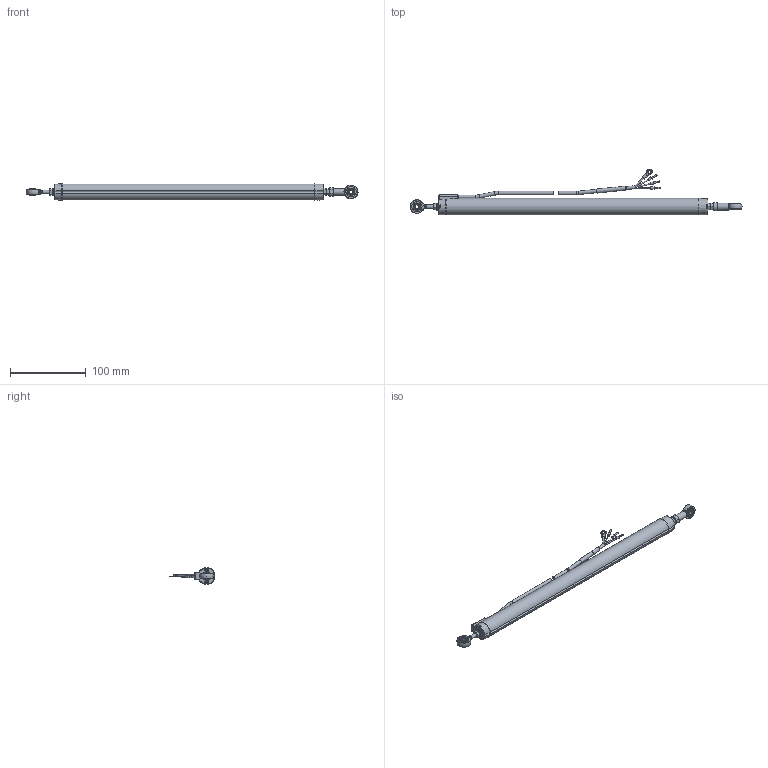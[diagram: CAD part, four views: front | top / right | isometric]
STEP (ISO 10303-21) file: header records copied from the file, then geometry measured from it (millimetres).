
FILE_DESCRIPTION(/* description */ (''),/* implementation_level */ '2;1');
FILE_NAME(/* name */ 'C:\Users\TSC_Brendan\Desktop\LPPS-22-300\LPPS-22-300 SW.stp',/* time_stamp */ '2021-10-19T15:20:35-04:00',/* author */ ('TSC_Brendan'),/* organization */ (''),/* preprocessor_version */ 'ST-DEVELOPER v18.1',/* originating_system */ 'Autodesk Inventor 2022',/* authorisation */ '');
FILE_SCHEMA (('AUTOMOTIVE_DESIGN { 1 0 10303 214 3 1 1 }'));
Products named in the file (4): LPPS-22-300 SW; LPPS-22-300 Cable_Simplify; LPPS-22-300 Housing_Simplify; LPPS-22-300 Shaft_Simplify
Assembly tree (3 placements, depth 2):
  LPPS-22-300 SW
    LPPS-22-300 Cable_Simplify
    LPPS-22-300 Housing_Simplify
    LPPS-22-300 Shaft_Simplify
Bounding box: 437.58 x 60.43 x 21.96 mm (x, y, z)
Volume: 71176.8 mm3; surface area: 67676.3 mm2
Topology: 30 solids, 30 shells, 757 faces, 2739 edges, 2048 vertices
Faces by surface type: cylinder 349, plane 202, cone 142, bspline 28, torus 22, sphere 14
Full cylindrical faces by diameter (mm): 1.27 x3, 1.48 x96, 1.575 x2, 2 x92, 2.286 x5, 3.175 x5, 3.81 x1, 3.881 x1, 4 x4, 4.134 x1, 4.191 x1, 4.342 x12, 4.572 x5, 4.826 x3, 4.851 x1, 4.953 x1, 5 x15, 5.004 x2, 5.08 x1, 5.207 x1, 5.3 x1, 6.35 x2, 9.144 x1, 10 x1, 12.675 x4, 12.7 x1, 15.875 x2, 17.78 x1
Entity records: 45074 total; most frequent: CARTESIAN_POINT 23734, ORIENTED_EDGE 5444, DIRECTION 3368, EDGE_CURVE 2722, VERTEX_POINT 2048, AXIS2_PLACEMENT_3D 1373, EDGE_LOOP 826, STYLED_ITEM 787
